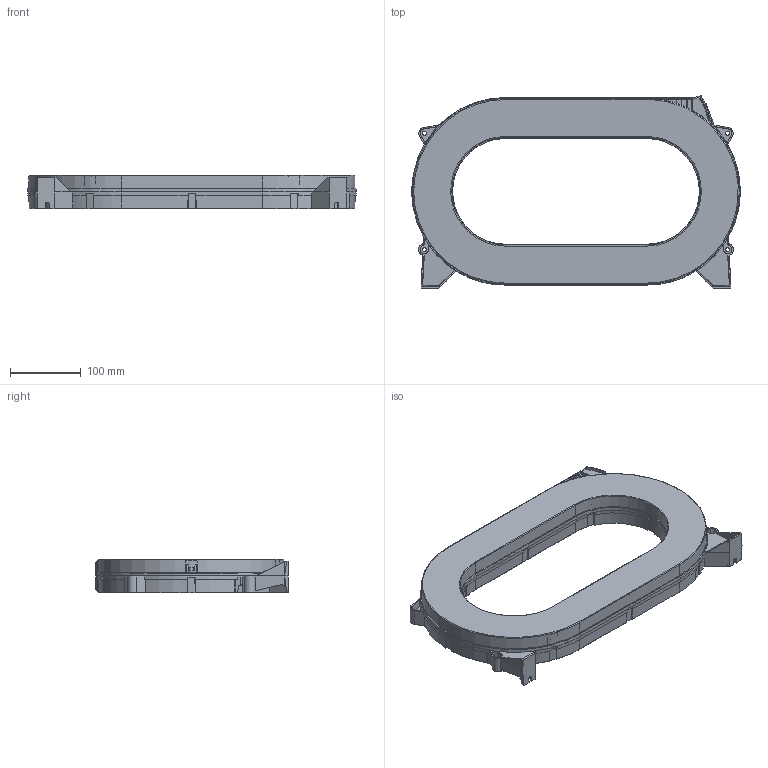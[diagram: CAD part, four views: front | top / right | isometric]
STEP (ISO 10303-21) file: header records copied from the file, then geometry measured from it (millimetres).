
FILE_DESCRIPTION((''),'2;1');
FILE_NAME('SIN_SOPORTE_SW0001','2020-11-09T11:37:22',('esors'),(''),'CREO PARAMETRIC BY PTC INC, 2018260','CREO PARAMETRIC BY PTC INC, 2018260','');
FILE_SCHEMA(('AUTOMOTIVE_DESIGN { 1 0 10303 214 1 1 1 1 }'));
Length unit declared in the file: millimetre
Products named in the file (1): SIN_SOPORTE_SW0001
Bounding box: 465.99 x 273.6 x 48.21 mm (x, y, z)
Volume: 618574.6 mm3; surface area: 512141.4 mm2
Topology: 1 solids, 1 shells, 1705 faces, 4629 edges, 2950 vertices
Faces by surface type: plane 929, cylinder 367, cone 227, bspline 82, torus 62, sphere 38
Entity records: 63493 total; most frequent: CARTESIAN_POINT 19986, ORIENTED_EDGE 9258, DIRECTION 8006, EDGE_CURVE 4629, VERTEX_POINT 2950, AXIS2_PLACEMENT_3D 2721, VECTOR 2564, LINE 2564
